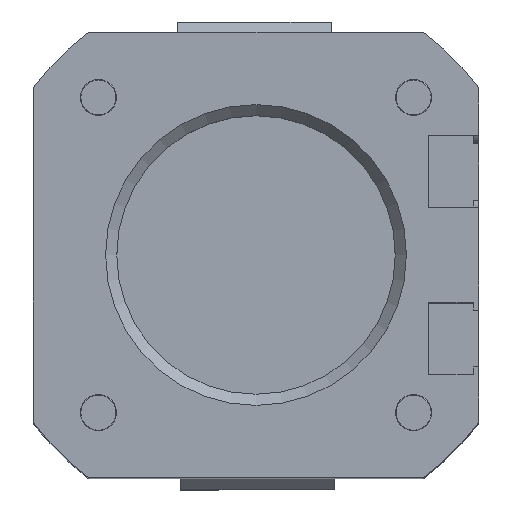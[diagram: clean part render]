
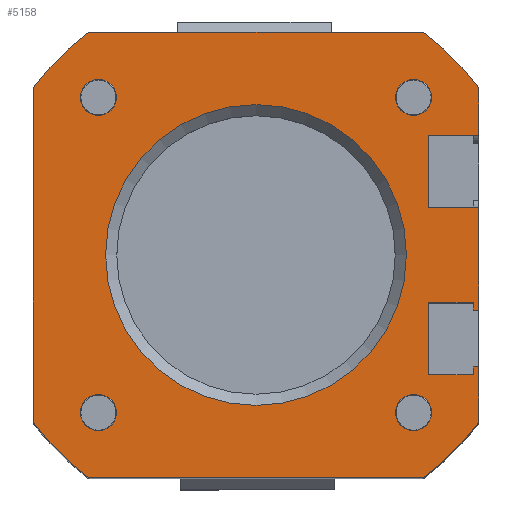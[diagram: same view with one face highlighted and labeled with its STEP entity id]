
A CAD part, top view. The second image highlights one B-rep face of the part: STEP entity #5158.
In plain terms, the highlighted planar face has unit normal (0, 0, 1).
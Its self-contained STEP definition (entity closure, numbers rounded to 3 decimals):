
#185=LINE('',#8154,#509);
#191=LINE('',#8170,#515);
#197=LINE('',#8186,#521);
#216=LINE('',#8224,#540);
#238=LINE('',#8325,#562);
#279=LINE('',#8428,#603);
#320=LINE('',#8575,#644);
#326=LINE('',#8587,#650);
#329=LINE('',#8593,#653);
#333=LINE('',#8600,#657);
#334=LINE('',#8605,#658);
#336=LINE('',#8611,#660);
#339=LINE('',#8615,#663);
#341=LINE('',#8618,#665);
#343=LINE('',#8624,#667);
#346=LINE('',#8629,#670);
#509=VECTOR('',#6367,4.25);
#515=VECTOR('',#6377,9.2);
#521=VECTOR('',#6387,4.95);
#540=VECTOR('',#6422,30.);
#562=VECTOR('',#6536,30.);
#603=VECTOR('',#6633,30.);
#644=VECTOR('',#6794,4.5);
#650=VECTOR('',#6804,0.5);
#653=VECTOR('',#6809,4.);
#657=VECTOR('',#6815,6.5);
#658=VECTOR('',#6820,0.7);
#660=VECTOR('',#6826,0.7);
#663=VECTOR('',#6831,0.5);
#665=VECTOR('',#6835,4.);
#667=VECTOR('',#6843,6.5);
#670=VECTOR('',#6848,4.5);
#923=PLANE('',#5667);
#1148=FACE_BOUND('',#1875,.T.);
#1149=FACE_BOUND('',#1876,.T.);
#1150=FACE_BOUND('',#1877,.T.);
#1151=FACE_BOUND('',#1878,.T.);
#1152=FACE_BOUND('',#1879,.T.);
#1422=FACE_OUTER_BOUND('',#1874,.T.);
#1874=EDGE_LOOP('',(#4238,#4239,#4240,#4241,#4242,#4243,#4244,#4245,#4246,
#4247,#4248,#4249,#4250,#4251,#4252,#4253,#4254,#4255,#4256,#4257));
#1875=EDGE_LOOP('',(#4258));
#1876=EDGE_LOOP('',(#4259));
#1877=EDGE_LOOP('',(#4260));
#1878=EDGE_LOOP('',(#4261));
#1879=EDGE_LOOP('',(#4262));
#2122=CIRCLE('',#5474,25.);
#2123=CIRCLE('',#5476,25.);
#2126=CIRCLE('',#5480,25.);
#2139=CIRCLE('',#5511,25.);
#2188=CIRCLE('',#5652,1.621);
#2190=CIRCLE('',#5655,1.621);
#2191=CIRCLE('',#5657,1.621);
#2193=CIRCLE('',#5660,1.621);
#2196=CIRCLE('',#5668,13.5);
#2437=VERTEX_POINT('',#8119);
#2438=VERTEX_POINT('',#8121);
#2439=VERTEX_POINT('',#8125);
#2440=VERTEX_POINT('',#8127);
#2445=VERTEX_POINT('',#8139);
#2446=VERTEX_POINT('',#8141);
#2450=VERTEX_POINT('',#8153);
#2457=VERTEX_POINT('',#8167);
#2458=VERTEX_POINT('',#8169);
#2465=VERTEX_POINT('',#8183);
#2466=VERTEX_POINT('',#8185);
#2489=VERTEX_POINT('',#8260);
#2590=VERTEX_POINT('',#8573);
#2594=VERTEX_POINT('',#8586);
#2595=VERTEX_POINT('',#8590);
#2596=VERTEX_POINT('',#8592);
#2598=VERTEX_POINT('',#8598);
#2600=VERTEX_POINT('',#8604);
#2602=VERTEX_POINT('',#8610);
#2603=VERTEX_POINT('',#8622);
#2606=VERTEX_POINT('',#8641);
#2608=VERTEX_POINT('',#8646);
#2609=VERTEX_POINT('',#8649);
#2611=VERTEX_POINT('',#8654);
#2618=VERTEX_POINT('',#8725);
#2942=EDGE_CURVE('',#2438,#2437,#2122,.T.);
#2945=EDGE_CURVE('',#2440,#2439,#2123,.T.);
#2952=EDGE_CURVE('',#2446,#2445,#2126,.T.);
#2959=EDGE_CURVE('',#2450,#2446,#185,.T.);
#2967=EDGE_CURVE('',#2458,#2457,#191,.T.);
#2975=EDGE_CURVE('',#2466,#2465,#197,.T.);
#2995=EDGE_CURVE('',#2439,#2438,#216,.T.);
#3010=EDGE_CURVE('',#2489,#2466,#2139,.T.);
#3037=EDGE_CURVE('',#2437,#2489,#238,.T.);
#3088=EDGE_CURVE('',#2445,#2440,#279,.T.);
#3149=EDGE_CURVE('',#2457,#2590,#320,.T.);
#3155=EDGE_CURVE('',#2594,#2458,#326,.T.);
#3158=EDGE_CURVE('',#2596,#2595,#329,.T.);
#3162=EDGE_CURVE('',#2595,#2598,#333,.T.);
#3164=EDGE_CURVE('',#2600,#2594,#334,.T.);
#3167=EDGE_CURVE('',#2602,#2596,#336,.T.);
#3170=EDGE_CURVE('',#2465,#2602,#339,.T.);
#3172=EDGE_CURVE('',#2598,#2600,#341,.T.);
#3175=EDGE_CURVE('',#2590,#2603,#343,.T.);
#3178=EDGE_CURVE('',#2603,#2450,#346,.T.);
#3182=EDGE_CURVE('',#2606,#2606,#2188,.T.);
#3184=EDGE_CURVE('',#2608,#2608,#2190,.T.);
#3185=EDGE_CURVE('',#2609,#2609,#2191,.T.);
#3187=EDGE_CURVE('',#2611,#2611,#2193,.T.);
#3196=EDGE_CURVE('',#2618,#2618,#2196,.T.);
#4238=ORIENTED_EDGE('',*,*,#3178,.T.);
#4239=ORIENTED_EDGE('',*,*,#2959,.T.);
#4240=ORIENTED_EDGE('',*,*,#2952,.T.);
#4241=ORIENTED_EDGE('',*,*,#3088,.T.);
#4242=ORIENTED_EDGE('',*,*,#2945,.T.);
#4243=ORIENTED_EDGE('',*,*,#2995,.T.);
#4244=ORIENTED_EDGE('',*,*,#2942,.T.);
#4245=ORIENTED_EDGE('',*,*,#3037,.T.);
#4246=ORIENTED_EDGE('',*,*,#3010,.T.);
#4247=ORIENTED_EDGE('',*,*,#2975,.T.);
#4248=ORIENTED_EDGE('',*,*,#3170,.T.);
#4249=ORIENTED_EDGE('',*,*,#3167,.T.);
#4250=ORIENTED_EDGE('',*,*,#3158,.T.);
#4251=ORIENTED_EDGE('',*,*,#3162,.T.);
#4252=ORIENTED_EDGE('',*,*,#3172,.T.);
#4253=ORIENTED_EDGE('',*,*,#3164,.T.);
#4254=ORIENTED_EDGE('',*,*,#3155,.T.);
#4255=ORIENTED_EDGE('',*,*,#2967,.T.);
#4256=ORIENTED_EDGE('',*,*,#3149,.T.);
#4257=ORIENTED_EDGE('',*,*,#3175,.T.);
#4258=ORIENTED_EDGE('',*,*,#3182,.T.);
#4259=ORIENTED_EDGE('',*,*,#3184,.T.);
#4260=ORIENTED_EDGE('',*,*,#3185,.T.);
#4261=ORIENTED_EDGE('',*,*,#3187,.T.);
#4262=ORIENTED_EDGE('',*,*,#3196,.F.);
#5158=ADVANCED_FACE('',(#1422,#1148,#1149,#1150,#1151,#1152),#923,.T.);
#5474=AXIS2_PLACEMENT_3D('',#8122,#6337,#6338);
#5476=AXIS2_PLACEMENT_3D('',#8128,#6343,#6344);
#5480=AXIS2_PLACEMENT_3D('',#8142,#6355,#6356);
#5511=AXIS2_PLACEMENT_3D('',#8261,#6462,#6463);
#5652=AXIS2_PLACEMENT_3D('',#8642,#6867,#6868);
#5655=AXIS2_PLACEMENT_3D('',#8647,#6873,#6874);
#5657=AXIS2_PLACEMENT_3D('',#8650,#6877,#6878);
#5660=AXIS2_PLACEMENT_3D('',#8655,#6883,#6884);
#5667=AXIS2_PLACEMENT_3D('',#8724,#6901,#6902);
#5668=AXIS2_PLACEMENT_3D('',#8726,#6903,#6904);
#6337=DIRECTION('center_axis',(0.,0.,
1.));
#6338=DIRECTION('ref_axis',(-0.8,-0.6,0.));
#6343=DIRECTION('center_axis',(0.,0.,
1.));
#6344=DIRECTION('ref_axis',(-0.6,0.8,0.));
#6355=DIRECTION('center_axis',(0.,0.,
1.));
#6356=DIRECTION('ref_axis',(0.8,0.6,0.));
#6367=DIRECTION('',(0.,1.,0.));
#6377=DIRECTION('',(0.,1.,0.));
#6387=DIRECTION('',(0.,1.,0.));
#6422=DIRECTION('',(0.,-1.,0.));
#6462=DIRECTION('center_axis',(0.,0.,
1.));
#6463=DIRECTION('ref_axis',(0.6,-0.8,0.));
#6536=DIRECTION('',(1.,0.,0.));
#6633=DIRECTION('',(-1.,0.,0.));
#6794=DIRECTION('',(-1.,0.,0.));
#6804=DIRECTION('',(1.,0.,0.));
#6809=DIRECTION('',(-1.,0.,0.));
#6815=DIRECTION('',(0.,1.,0.));
#6820=DIRECTION('',(0.,-1.,0.));
#6826=DIRECTION('',(0.,-1.,0.));
#6831=DIRECTION('',(-1.,0.,0.));
#6835=DIRECTION('',(1.,0.,0.));
#6843=DIRECTION('',(0.,1.,0.));
#6848=DIRECTION('',(1.,0.,0.));
#6867=DIRECTION('center_axis',(0.,0.,
-1.));
#6868=DIRECTION('ref_axis',(0.,1.,0.));
#6873=DIRECTION('center_axis',(0.,0.,
-1.));
#6874=DIRECTION('ref_axis',(0.,1.,0.));
#6877=DIRECTION('center_axis',(0.,0.,
-1.));
#6878=DIRECTION('ref_axis',(0.,1.,0.));
#6883=DIRECTION('center_axis',(0.,0.,
-1.));
#6884=DIRECTION('ref_axis',(0.,1.,0.));
#6901=DIRECTION('center_axis',(0.,0.,
1.));
#6902=DIRECTION('ref_axis',(0.,1.,0.));
#6903=DIRECTION('center_axis',(0.,0.,
1.));
#6904=DIRECTION('ref_axis',(0.,-1.,0.));
#8119=CARTESIAN_POINT('',(-15.,0.,35.5));
#8121=CARTESIAN_POINT('',(-20.,5.,35.5));
#8122=CARTESIAN_POINT('Origin',(0.,20.,35.5));
#8125=CARTESIAN_POINT('',(-20.,35.,35.5));
#8127=CARTESIAN_POINT('',(-15.,40.,35.5));
#8128=CARTESIAN_POINT('Origin',(0.,20.,35.5));
#8139=CARTESIAN_POINT('',(15.,40.,35.5));
#8141=CARTESIAN_POINT('',(20.,35.,35.5));
#8142=CARTESIAN_POINT('Origin',(0.,20.,35.5));
#8153=CARTESIAN_POINT('',(20.,30.75,35.5));
#8154=CARTESIAN_POINT('',(20.,0.,35.5));
#8167=CARTESIAN_POINT('',(20.,24.25,35.5));
#8169=CARTESIAN_POINT('',(20.,15.05,35.5));
#8170=CARTESIAN_POINT('',(20.,0.,35.5));
#8183=CARTESIAN_POINT('',(20.,9.95,35.5));
#8185=CARTESIAN_POINT('',(20.,5.,35.5));
#8186=CARTESIAN_POINT('',(20.,0.,35.5));
#8224=CARTESIAN_POINT('',(-20.,40.,35.5));
#8260=CARTESIAN_POINT('',(15.,0.,35.5));
#8261=CARTESIAN_POINT('Origin',(0.,20.,35.5));
#8325=CARTESIAN_POINT('',(-20.,0.,35.5));
#8428=CARTESIAN_POINT('',(20.,40.,35.5));
#8573=CARTESIAN_POINT('',(15.5,24.25,35.5));
#8575=CARTESIAN_POINT('',(10.,24.25,35.5));
#8586=CARTESIAN_POINT('',(19.5,15.05,35.5));
#8587=CARTESIAN_POINT('',(10.,15.05,35.5));
#8590=CARTESIAN_POINT('',(15.5,9.25,35.5));
#8592=CARTESIAN_POINT('',(19.5,9.25,35.5));
#8593=CARTESIAN_POINT('',(7.75,9.25,35.5));
#8598=CARTESIAN_POINT('',(15.5,15.75,35.5));
#8600=CARTESIAN_POINT('',(15.5,17.875,35.5));
#8604=CARTESIAN_POINT('',(19.5,15.75,35.5));
#8605=CARTESIAN_POINT('',(19.5,17.525,35.5));
#8610=CARTESIAN_POINT('',(19.5,9.95,35.5));
#8611=CARTESIAN_POINT('',(19.5,14.625,35.5));
#8615=CARTESIAN_POINT('',(9.75,9.95,35.5));
#8618=CARTESIAN_POINT('',(9.75,15.75,35.5));
#8622=CARTESIAN_POINT('',(15.5,30.75,35.5));
#8624=CARTESIAN_POINT('',(15.5,25.375,35.5));
#8629=CARTESIAN_POINT('',(9.75,30.75,35.5));
#8641=CARTESIAN_POINT('',(-14.15,7.471,35.5));
#8642=CARTESIAN_POINT('Origin',(-14.15,5.85,35.5));
#8646=CARTESIAN_POINT('',(14.15,7.471,35.5));
#8647=CARTESIAN_POINT('Origin',(14.15,5.85,35.5));
#8649=CARTESIAN_POINT('',(14.15,35.771,35.5));
#8650=CARTESIAN_POINT('Origin',(14.15,34.15,35.5));
#8654=CARTESIAN_POINT('',(-14.15,35.771,35.5));
#8655=CARTESIAN_POINT('Origin',(-14.15,34.15,35.5));
#8724=CARTESIAN_POINT('Origin',(0.,20.,35.5));
#8725=CARTESIAN_POINT('',(0.,33.5,35.5));
#8726=CARTESIAN_POINT('Origin',(0.,20.,35.5));
